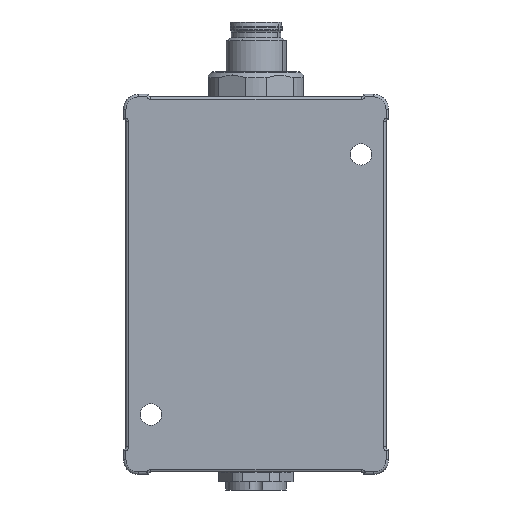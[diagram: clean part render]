
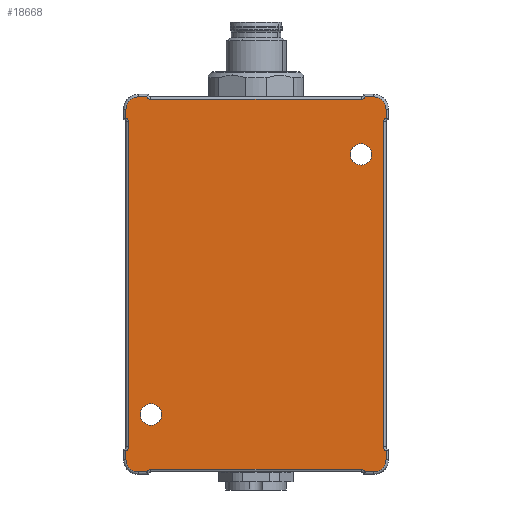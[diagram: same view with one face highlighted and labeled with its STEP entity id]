
A CAD part, front view. The second image highlights one B-rep face of the part: STEP entity #18668.
In plain terms, the highlighted planar face has unit normal (0, -1, 0).
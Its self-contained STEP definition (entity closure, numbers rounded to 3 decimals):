
#208=CARTESIAN_POINT('',(23.5,-3.,-35.));
#209=DIRECTION('',(0.,1.,0.));
#210=DIRECTION('',(1.,0.,0.));
#211=AXIS2_PLACEMENT_3D('',#208,#209,#210);
#216=DIRECTION('',(1.,0.,0.));
#217=VECTOR('',#216,1.634);
#218=CARTESIAN_POINT('',(21.866,-3.,-37.5));
#219=LINE('',#218,#217);
#223=CARTESIAN_POINT('',(21.,-3.,-38.));
#224=DIRECTION('',(0.,-1.,0.));
#225=DIRECTION('',(0.866,0.,0.5));
#226=AXIS2_PLACEMENT_3D('',#223,#224,#225);
#231=DIRECTION('',(-1.,0.,0.));
#232=VECTOR('',#231,42.);
#233=CARTESIAN_POINT('',(21.,-3.,-37.));
#234=LINE('',#233,#232);
#238=CARTESIAN_POINT('',(-21.,-3.,-38.));
#239=DIRECTION('',(0.,-1.,0.));
#240=DIRECTION('',(0.,0.,1.));
#241=AXIS2_PLACEMENT_3D('',#238,#239,#240);
#246=DIRECTION('',(1.,0.,0.));
#247=VECTOR('',#246,1.634);
#248=CARTESIAN_POINT('',(-23.5,-3.,-37.5));
#249=LINE('',#248,#247);
#253=CARTESIAN_POINT('',(-23.5,-3.,-35.));
#254=DIRECTION('',(0.,1.,0.));
#255=DIRECTION('',(0.,0.,-1.));
#256=AXIS2_PLACEMENT_3D('',#253,#254,#255);
#261=DIRECTION('',(0.,0.,-1.));
#262=VECTOR('',#261,1.634);
#263=CARTESIAN_POINT('',(-26.,-3.,-33.366));
#264=LINE('',#263,#262);
#268=CARTESIAN_POINT('',(-26.5,-3.,-32.5));
#269=DIRECTION('',(0.,-1.,0.));
#270=DIRECTION('',(0.5,0.,-0.866));
#271=AXIS2_PLACEMENT_3D('',#268,#269,#270);
#276=DIRECTION('',(0.,0.,1.));
#277=VECTOR('',#276,65.);
#278=CARTESIAN_POINT('',(-25.5,-3.,-32.5));
#279=LINE('',#278,#277);
#283=CARTESIAN_POINT('',(-26.5,-3.,32.5));
#284=DIRECTION('',(0.,-1.,0.));
#285=DIRECTION('',(1.,0.,0.));
#286=AXIS2_PLACEMENT_3D('',#283,#284,#285);
#291=DIRECTION('',(0.,0.,-1.));
#292=VECTOR('',#291,1.634);
#293=CARTESIAN_POINT('',(-26.,-3.,35.));
#294=LINE('',#293,#292);
#298=CARTESIAN_POINT('',(-23.5,-3.,35.));
#299=DIRECTION('',(0.,1.,0.));
#300=DIRECTION('',(-1.,0.,0.));
#301=AXIS2_PLACEMENT_3D('',#298,#299,#300);
#306=DIRECTION('',(-1.,0.,0.));
#307=VECTOR('',#306,1.634);
#308=CARTESIAN_POINT('',(-21.866,-3.,37.5));
#309=LINE('',#308,#307);
#313=CARTESIAN_POINT('',(-21.,-3.,38.));
#314=DIRECTION('',(0.,-1.,0.));
#315=DIRECTION('',(-0.866,0.,-0.5));
#316=AXIS2_PLACEMENT_3D('',#313,#314,#315);
#321=DIRECTION('',(1.,0.,0.));
#322=VECTOR('',#321,42.);
#323=CARTESIAN_POINT('',(-21.,-3.,37.));
#324=LINE('',#323,#322);
#328=CARTESIAN_POINT('',(21.,-3.,38.));
#329=DIRECTION('',(0.,-1.,0.));
#330=DIRECTION('',(0.,0.,-1.));
#331=AXIS2_PLACEMENT_3D('',#328,#329,#330);
#336=DIRECTION('',(-1.,0.,0.));
#337=VECTOR('',#336,1.634);
#338=CARTESIAN_POINT('',(23.5,-3.,37.5));
#339=LINE('',#338,#337);
#343=CARTESIAN_POINT('',(23.5,-3.,35.));
#344=DIRECTION('',(0.,1.,0.));
#345=DIRECTION('',(0.,0.,1.));
#346=AXIS2_PLACEMENT_3D('',#343,#344,#345);
#351=DIRECTION('',(0.,0.,1.));
#352=VECTOR('',#351,1.634);
#353=CARTESIAN_POINT('',(26.,-3.,33.366));
#354=LINE('',#353,#352);
#358=CARTESIAN_POINT('',(26.5,-3.,32.5));
#359=DIRECTION('',(0.,-1.,0.));
#360=DIRECTION('',(-0.5,0.,0.866));
#361=AXIS2_PLACEMENT_3D('',#358,#359,#360);
#366=DIRECTION('',(0.,0.,-1.));
#367=VECTOR('',#366,65.);
#368=CARTESIAN_POINT('',(25.5,-3.,32.5));
#369=LINE('',#368,#367);
#373=CARTESIAN_POINT('',(26.5,-3.,-32.5));
#374=DIRECTION('',(0.,-1.,0.));
#375=DIRECTION('',(-1.,0.,0.));
#376=AXIS2_PLACEMENT_3D('',#373,#374,#375);
#381=DIRECTION('',(0.,0.,1.));
#382=VECTOR('',#381,1.634);
#383=CARTESIAN_POINT('',(26.,-3.,-35.));
#384=LINE('',#383,#382);
#388=CARTESIAN_POINT('',(21.,-3.,26.));
#389=DIRECTION('',(0.,1.,0.));
#390=DIRECTION('',(1.,0.,0.));
#391=AXIS2_PLACEMENT_3D('',#388,#389,#390);
#396=CARTESIAN_POINT('',(21.,-3.,26.));
#397=DIRECTION('',(0.,1.,0.));
#398=DIRECTION('',(-1.,0.,0.));
#399=AXIS2_PLACEMENT_3D('',#396,#397,#398);
#404=CARTESIAN_POINT('',(-21.,-3.,-26.));
#405=DIRECTION('',(0.,1.,0.));
#406=DIRECTION('',(1.,0.,0.));
#407=AXIS2_PLACEMENT_3D('',#404,#405,#406);
#412=CARTESIAN_POINT('',(-21.,-3.,-26.));
#413=DIRECTION('',(0.,1.,0.));
#414=DIRECTION('',(-1.,0.,0.));
#415=AXIS2_PLACEMENT_3D('',#412,#413,#414);
#589=CARTESIAN_POINT('',(26.,-3.,-33.366));
#3922=CARTESIAN_POINT('',(-21.866,-3.,37.5));
#4098=CARTESIAN_POINT('',(-26.,-3.,-33.366));
#4357=CARTESIAN_POINT('',(-21.866,-3.,-37.5));
#16318=VERTEX_POINT('',#4098);
#16320=VERTEX_POINT('',#3922);
#16321=VERTEX_POINT('',#589);
#16323=VERTEX_POINT('',#4357);
#16326=CARTESIAN_POINT('',(23.5,-3.,-37.5));
#16328=VERTEX_POINT('',#16326);
#16329=CARTESIAN_POINT('',(26.,-3.,-35.));
#16330=VERTEX_POINT('',#16329);
#16333=CARTESIAN_POINT('',(-23.5,-3.,-37.5));
#16334=CARTESIAN_POINT('',(-26.,-3.,-35.));
#16335=VERTEX_POINT('',#16333);
#16336=VERTEX_POINT('',#16334);
#16340=CARTESIAN_POINT('',(26.,-3.,35.));
#16342=VERTEX_POINT('',#16340);
#16343=CARTESIAN_POINT('',(23.5,-3.,37.5));
#16344=VERTEX_POINT('',#16343);
#16348=CARTESIAN_POINT('',(-23.5,-3.,37.5));
#16350=VERTEX_POINT('',#16348);
#16351=CARTESIAN_POINT('',(-26.,-3.,35.));
#16352=VERTEX_POINT('',#16351);
#16353=CARTESIAN_POINT('',(26.,-3.,33.366));
#16354=VERTEX_POINT('',#16353);
#16357=CARTESIAN_POINT('',(21.866,-3.,-37.5));
#16358=VERTEX_POINT('',#16357);
#16367=CARTESIAN_POINT('',(-26.,-3.,33.366));
#16368=VERTEX_POINT('',#16367);
#16371=CARTESIAN_POINT('',(21.866,-3.,37.5));
#16372=VERTEX_POINT('',#16371);
#16375=CARTESIAN_POINT('',(21.,-3.,-37.));
#16376=VERTEX_POINT('',#16375);
#16379=CARTESIAN_POINT('',(-21.,-3.,-37.));
#16380=VERTEX_POINT('',#16379);
#16383=CARTESIAN_POINT('',(25.5,-3.,32.5));
#16384=VERTEX_POINT('',#16383);
#16387=CARTESIAN_POINT('',(25.5,-3.,-32.5));
#16388=VERTEX_POINT('',#16387);
#16391=CARTESIAN_POINT('',(-21.,-3.,37.));
#16392=VERTEX_POINT('',#16391);
#16395=CARTESIAN_POINT('',(21.,-3.,37.));
#16396=VERTEX_POINT('',#16395);
#16399=CARTESIAN_POINT('',(-25.5,-3.,-32.5));
#16400=VERTEX_POINT('',#16399);
#16403=CARTESIAN_POINT('',(-25.5,-3.,32.5));
#16404=VERTEX_POINT('',#16403);
#16457=CARTESIAN_POINT('',(-18.85,-3.,-26.));
#16458=CARTESIAN_POINT('',(-23.15,-3.,-26.));
#16459=VERTEX_POINT('',#16457);
#16460=VERTEX_POINT('',#16458);
#16465=CARTESIAN_POINT('',(23.15,-3.,26.));
#16466=CARTESIAN_POINT('',(18.85,-3.,26.));
#16467=VERTEX_POINT('',#16465);
#16468=VERTEX_POINT('',#16466);
#18602=CARTESIAN_POINT('',(0.,-3.,0.));
#18603=DIRECTION('',(0.,-1.,0.));
#18604=DIRECTION('',(1.,0.,0.));
#18605=AXIS2_PLACEMENT_3D('',#18602,#18603,#18604);
#18606=PLANE('',#18605);
#18608=ORIENTED_EDGE('',*,*,#18607,.T.);
#18610=ORIENTED_EDGE('',*,*,#18609,.F.);
#18612=ORIENTED_EDGE('',*,*,#18611,.T.);
#18614=ORIENTED_EDGE('',*,*,#18613,.T.);
#18616=ORIENTED_EDGE('',*,*,#18615,.T.);
#18618=ORIENTED_EDGE('',*,*,#18617,.F.);
#18619=ORIENTED_EDGE('',*,*,#18585,.T.);
#18621=ORIENTED_EDGE('',*,*,#18620,.F.);
#18623=ORIENTED_EDGE('',*,*,#18622,.T.);
#18625=ORIENTED_EDGE('',*,*,#18624,.T.);
#18627=ORIENTED_EDGE('',*,*,#18626,.T.);
#18629=ORIENTED_EDGE('',*,*,#18628,.F.);
#18631=ORIENTED_EDGE('',*,*,#18630,.T.);
#18633=ORIENTED_EDGE('',*,*,#18632,.F.);
#18635=ORIENTED_EDGE('',*,*,#18634,.T.);
#18637=ORIENTED_EDGE('',*,*,#18636,.T.);
#18639=ORIENTED_EDGE('',*,*,#18638,.T.);
#18641=ORIENTED_EDGE('',*,*,#18640,.F.);
#18643=ORIENTED_EDGE('',*,*,#18642,.T.);
#18645=ORIENTED_EDGE('',*,*,#18644,.F.);
#18647=ORIENTED_EDGE('',*,*,#18646,.T.);
#18649=ORIENTED_EDGE('',*,*,#18648,.T.);
#18651=ORIENTED_EDGE('',*,*,#18650,.T.);
#18653=ORIENTED_EDGE('',*,*,#18652,.F.);
#18654=EDGE_LOOP('',(#18608,#18610,#18612,#18614,#18616,#18618,#18619,#18621,
#18623,#18625,#18627,#18629,#18631,#18633,#18635,#18637,#18639,#18641,#18643,
#18645,#18647,#18649,#18651,#18653));
#18655=FACE_OUTER_BOUND('',#18654,.F.);
#18657=ORIENTED_EDGE('',*,*,#18656,.F.);
#18659=ORIENTED_EDGE('',*,*,#18658,.F.);
#18660=EDGE_LOOP('',(#18657,#18659));
#18661=FACE_BOUND('',#18660,.F.);
#18663=ORIENTED_EDGE('',*,*,#18662,.F.);
#18665=ORIENTED_EDGE('',*,*,#18664,.F.);
#18666=EDGE_LOOP('',(#18663,#18665));
#18667=FACE_BOUND('',#18666,.F.);
#212=CIRCLE('',#211,2.5);
#227=CIRCLE('',#226,1.);
#242=CIRCLE('',#241,1.);
#257=CIRCLE('',#256,2.5);
#272=CIRCLE('',#271,1.);
#287=CIRCLE('',#286,1.);
#302=CIRCLE('',#301,2.5);
#317=CIRCLE('',#316,1.);
#332=CIRCLE('',#331,1.);
#347=CIRCLE('',#346,2.5);
#362=CIRCLE('',#361,1.);
#377=CIRCLE('',#376,1.);
#392=CIRCLE('',#391,2.15);
#400=CIRCLE('',#399,2.15);
#408=CIRCLE('',#407,2.15);
#416=CIRCLE('',#415,2.15);
#18585=EDGE_CURVE('',#16335,#16336,#257,.T.);
#18607=EDGE_CURVE('',#16330,#16328,#212,.T.);
#18609=EDGE_CURVE('',#16358,#16328,#219,.T.);
#18611=EDGE_CURVE('',#16358,#16376,#227,.T.);
#18613=EDGE_CURVE('',#16376,#16380,#234,.T.);
#18615=EDGE_CURVE('',#16380,#16323,#242,.T.);
#18617=EDGE_CURVE('',#16335,#16323,#249,.T.);
#18620=EDGE_CURVE('',#16318,#16336,#264,.T.);
#18622=EDGE_CURVE('',#16318,#16400,#272,.T.);
#18624=EDGE_CURVE('',#16400,#16404,#279,.T.);
#18626=EDGE_CURVE('',#16404,#16368,#287,.T.);
#18628=EDGE_CURVE('',#16352,#16368,#294,.T.);
#18630=EDGE_CURVE('',#16352,#16350,#302,.T.);
#18632=EDGE_CURVE('',#16320,#16350,#309,.T.);
#18634=EDGE_CURVE('',#16320,#16392,#317,.T.);
#18636=EDGE_CURVE('',#16392,#16396,#324,.T.);
#18638=EDGE_CURVE('',#16396,#16372,#332,.T.);
#18640=EDGE_CURVE('',#16344,#16372,#339,.T.);
#18642=EDGE_CURVE('',#16344,#16342,#347,.T.);
#18644=EDGE_CURVE('',#16354,#16342,#354,.T.);
#18646=EDGE_CURVE('',#16354,#16384,#362,.T.);
#18648=EDGE_CURVE('',#16384,#16388,#369,.T.);
#18650=EDGE_CURVE('',#16388,#16321,#377,.T.);
#18652=EDGE_CURVE('',#16330,#16321,#384,.T.);
#18656=EDGE_CURVE('',#16467,#16468,#392,.T.);
#18658=EDGE_CURVE('',#16468,#16467,#400,.T.);
#18662=EDGE_CURVE('',#16459,#16460,#408,.T.);
#18664=EDGE_CURVE('',#16460,#16459,#416,.T.);
#18668=ADVANCED_FACE('',(#18655,#18661,#18667),#18606,.T.);
